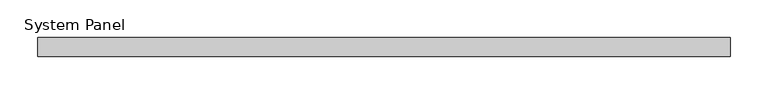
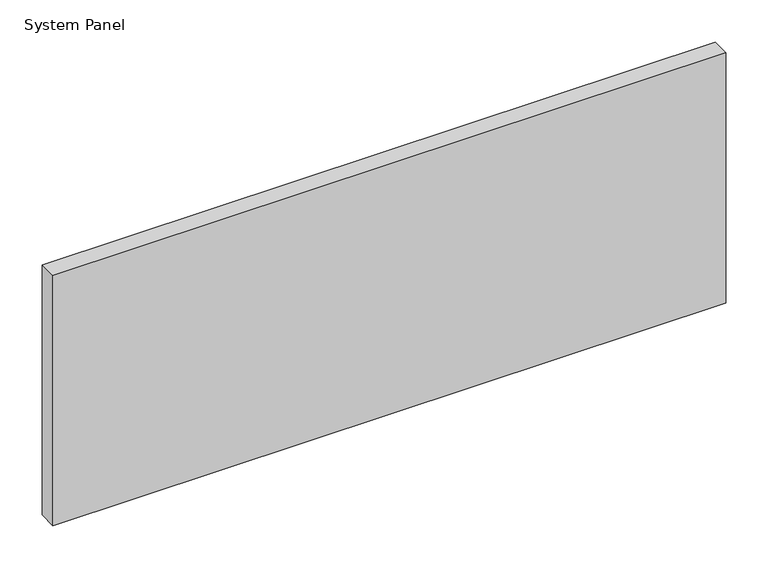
"""IFC4 building model written with IfcOpenShell, lengths in millimetres: plate geometry, System Panel : Glazed - ACMP (AL-1)."""

from ifc_helpers import new_model, si_unit, origin, origin_with_axes, place, context, project, spatial, polyline, outline, extrude, source, transform, mapped, element, save


def system_panel_f8a1068c(model_context):
    return source(origin(), model_context, "Body", "SweptSolid", [
        extrude(outline(polyline([(459.9068889, 0.0), (-459.9068889, 0.0), (-459.9068889, 25.4), (459.9068889, 25.4), (459.9068889, 0.0)])), origin_with_axes(), (0.0, 0.0, 1.0), 361.95),
    ])


if __name__ == "__main__":
    model = new_model("IFC4")
    model_context = context("Model", 3, world=origin())
    ifc_project = project(units=[si_unit("LENGTHUNIT", "METRE", prefix="MILLI")], contexts=[model_context])
    site = spatial("IfcSite", under=ifc_project)
    building = spatial("IfcBuilding", under=site)
    placement = place(None, origin())
    system_panel_shape = system_panel_f8a1068c(model_context)
    element("IfcPlate", 1, ObjectType="System Panel : Glazed - ACMP (AL-1)", at=placement, inside=building, context=model_context, shape_type="MappedRepresentation", body=[
        mapped(system_panel_shape, transform((0.0, 0.0, 0.0), x_axis=(1.0, 0.0, 0.0), y_axis=(0.0, 1.0, 0.0), z_axis=(0.0, 0.0, 1.0))),
    ])
    save(model, "model.ifc")
